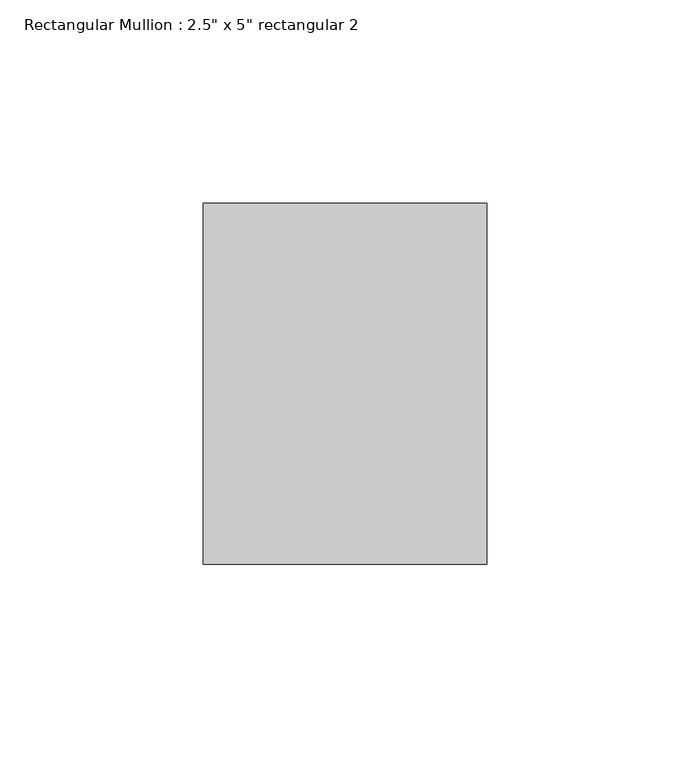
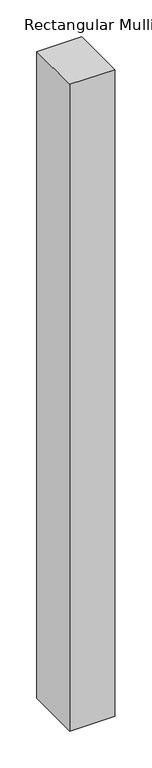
"""IFC4 building model written with IfcOpenShell, lengths in millimetres: member geometry."""

from ifc_helpers import new_model, si_unit, frame, origin, place, context, project, spatial, polyline, outline, extrude, source, transform, mapped, element, save


def member_4f72c76e(model_context):
    return source(origin(), model_context, "Body", "SweptSolid", [
        extrude(outline(polyline([(0.0, 44.45), (0.0, -44.45), (-69.85, -44.45), (-69.85, 44.45), (0.0, 44.45)])), frame((0.0, 0.0, -1067.016236), z_axis=(0.0, 0.0, 1.0), x_axis=(1.0, 0.0, 0.0)), (0.0, 0.0, 1.0), 1067.016236),
    ])


if __name__ == "__main__":
    model = new_model("IFC4")
    model_context = context("Model", 3, world=origin())
    ifc_project = project(units=[si_unit("LENGTHUNIT", "METRE", prefix="MILLI")], contexts=[model_context])
    site = spatial("IfcSite", under=ifc_project)
    building = spatial("IfcBuilding", under=site)
    placement = place(None, origin())
    member_shape = member_4f72c76e(model_context)
    element("IfcMember", 1, ObjectType="Rectangular Mullion : 2.5\" x 5\" rectangular 2", at=placement, inside=building, context=model_context, shape_type="MappedRepresentation", body=[
        mapped(member_shape, transform((0.0, 0.0, 0.0), x_axis=(1.0, 0.0, 0.0), y_axis=(0.0, 1.0, 0.0), z_axis=(0.0, 0.0, 1.0))),
    ])
    save(model, "model.ifc")
